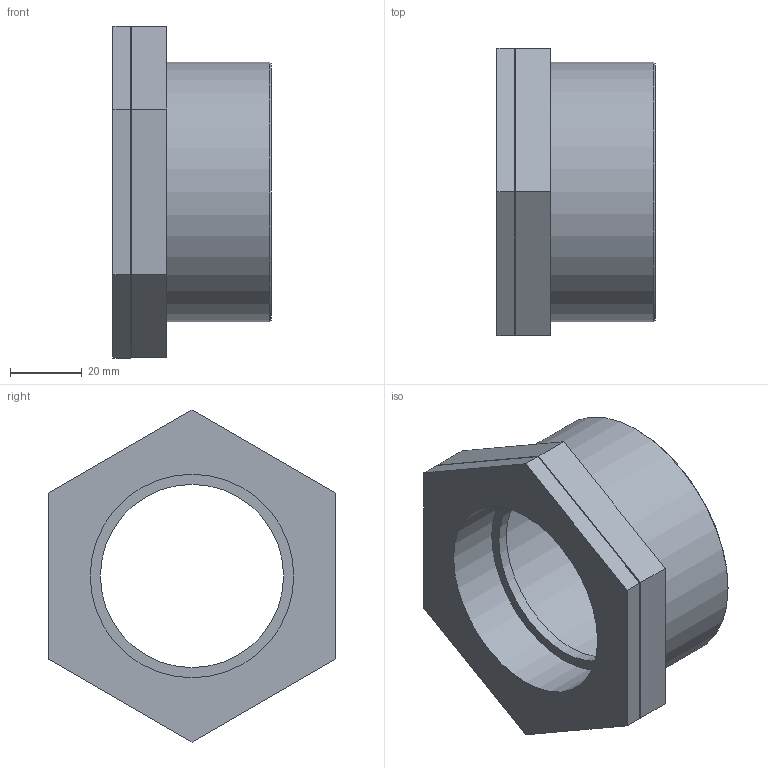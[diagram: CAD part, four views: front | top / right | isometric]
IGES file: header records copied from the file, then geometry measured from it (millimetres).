
Global section: file name: 050207025020_0502070250200A.ipt; native system: Autodesk Inventor 2015; preprocessor: unknown; author: KIM; date: 20170618.093143; units: millimetre
Bounding box: 44 x 80 x 92.38 mm (x, y, z)
Volume: 69744 mm3; surface area: 29877.7 mm2
Topology: 1 solids, 1 shells, 27 faces, 62 edges, 43 vertices
Faces by surface type: plane 20, revolution 4, cylinder 2, cone 1
Full cylindrical faces by diameter (mm): 72.226 x2
